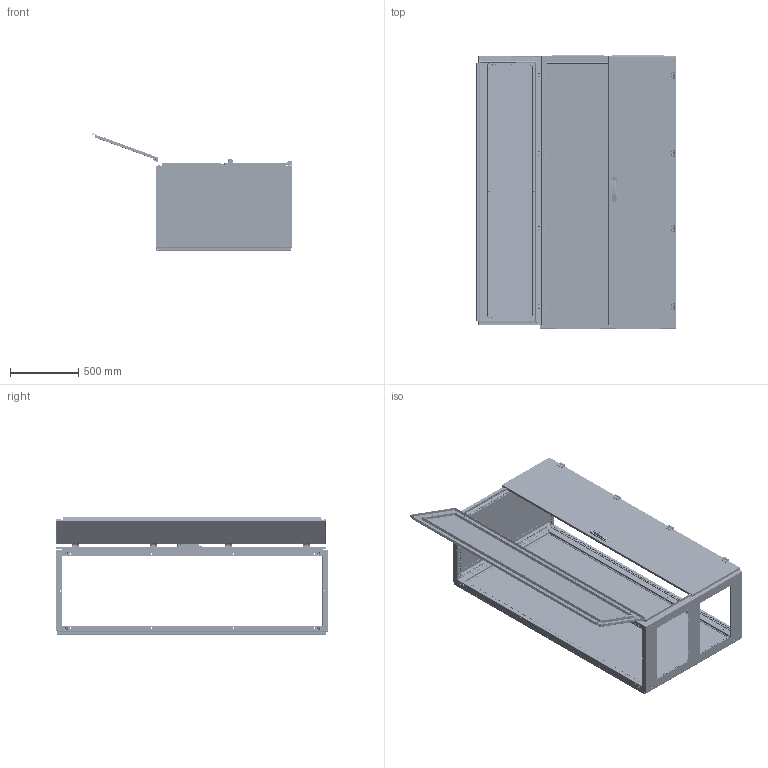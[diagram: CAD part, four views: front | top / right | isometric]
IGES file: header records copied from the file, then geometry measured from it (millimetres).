
Start section: SolidWorks IGES file using analytic representation for surfaces
Global section: file name: U:\14_RD\05_Technical_office\04_Office\Hrdinova\3D modely - IGES\Distri\QA201006.IGS; native system: SolidWorks 2011; preprocessor: SolidWorks 2011; author: adhrja3; date: 170613.083456; units: millimetre
Bounding box: 1468.78 x 2004.5 x 862.7 mm (x, y, z)
Surface area: 16635133.2 mm2 (no closed solid volume)
Topology: 0 solids, 0 shells, 9095 faces, 154546 edges, 154232 vertices
Faces by surface type: bspline 4767, revolution 4328
